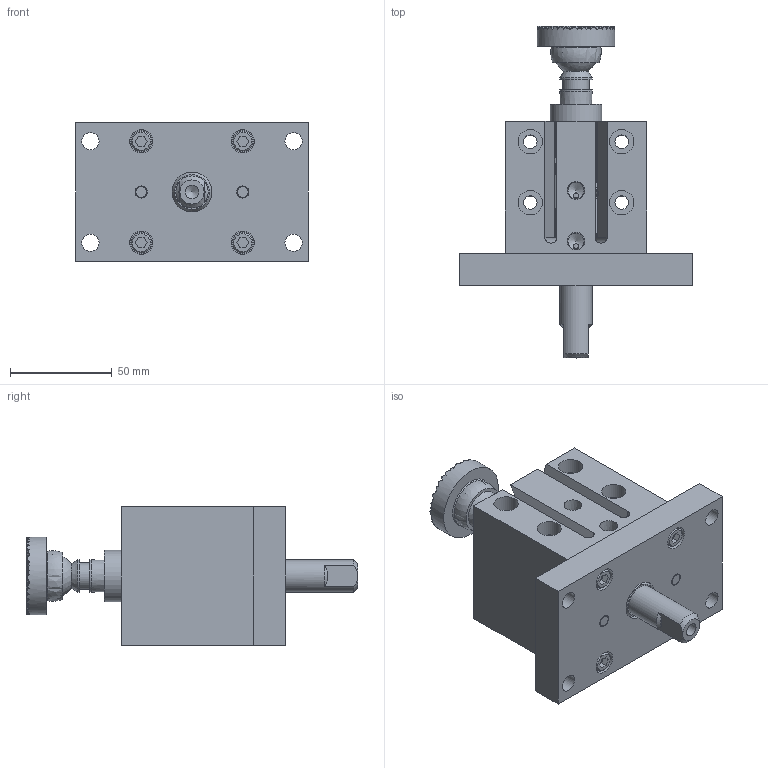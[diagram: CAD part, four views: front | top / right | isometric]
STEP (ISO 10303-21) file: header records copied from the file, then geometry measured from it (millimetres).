
FILE_DESCRIPTION(/* description */ ('PNEUMATIC PASS THRU GROUND UNIT'),/* implementation_level */ '2;1');
FILE_NAME(/* name */ 'C:\Vault Workspace\CAD\Welker\Cylinders\GBP\GBPCG.stp',/* time_stamp */ '2021-06-24T14:01:01-04:00',/* author */ ('KPL'),/* organization */ (''),/* preprocessor_version */ 'ST-DEVELOPER v18.1',/* originating_system */ 'Autodesk Inventor 2020',/* authorisation */ '');
FILE_SCHEMA (('AUTOMOTIVE_DESIGN { 1 0 10303 214 3 1 1 }'));
Products named in the file (11): GBPL01; 6mmX25 ; M6X1-20 SHCS; NL6; L3 Sensor 1; GB3E25; GBPE01; GBPE02; GBPE03; AN-09U2145; AN-03U2145
Assembly tree (18 placements, depth 2):
  GBPL01
    6mmX25   x2
    M6X1-20 SHCS  x4
    NL6  x4
    L3 Sensor 1  x2
    GB3E25
    GBPE01
    GBPE02
    GBPE03
    AN-09U2145
    AN-03U2145
Bounding box: 114.3 x 163.5 x 68 mm (x, y, z)
Volume: 397548.7 mm3; surface area: 96255.1 mm2
Topology: 18 solids, 18 shells, 1024 faces, 2199 edges, 1251 vertices
Faces by surface type: plane 829, cylinder 143, cone 40, torus 8, sphere 4
Full cylindrical faces by diameter (mm): 2.5 x2, 2.9 x2, 4.917 x4, 6 x10, 6.5 x8, 6.647 x5, 7.95 x2, 8 x2, 8.5 x4, 10 x4, 10.8 x4, 11.5 x4, 12 x4, 13 x1, 13.335 x1, 14.935 x2, 15.875 x6, 15.951 x2, 16.129 x1, 19.609 x1, 22.022 x1, 22.225 x1, 22.479 x2, 25.4 x1, 26.162 x1, 28.55 x1, 29.159 x1, 31.75 x3, 32.258 x1, 32.309 x1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
Entity records: 22102 total; most frequent: DIRECTION 3926, CARTESIAN_POINT 3730, ORIENTED_EDGE 3418, EDGE_CURVE 1709, AXIS2_PLACEMENT_3D 1368, LINE 1190, VECTOR 1190, VERTEX_POINT 943
